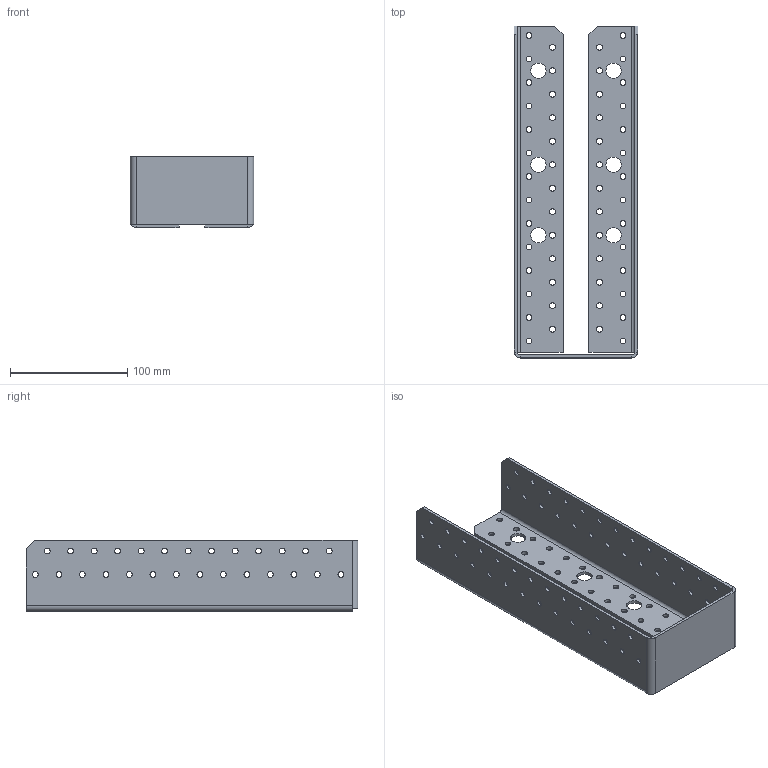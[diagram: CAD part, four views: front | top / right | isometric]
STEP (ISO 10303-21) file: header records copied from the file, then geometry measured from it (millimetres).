
FILE_DESCRIPTION (( 'STEP AP203' ), '1' );
FILE_NAME ('40502IKO.STEP', '2021-04-16T07:33:05', ( '' ), ( '' ), 'SwSTEP 2.0', 'SolidWorks 2013', '' );
FILE_SCHEMA (( 'CONFIG_CONTROL_DESIGN' ));
Length unit declared in the file: millimetre
Products named in the file (1): 40502IKO
Bounding box: 105 x 282.5 x 60.5 mm (x, y, z)
Volume: 143768.9 mm3; surface area: 123827.8 mm2
Topology: 1 solids, 1 shells, 272 faces, 780 edges, 510 vertices
Faces by surface type: cylinder 236, plane 36
Entity records: 9671 total; most frequent: DIRECTION 1800, CARTESIAN_POINT 1563, ORIENTED_EDGE 1560, EDGE_CURVE 780, AXIS2_PLACEMENT_3D 747, VERTEX_POINT 510, EDGE_LOOP 500, CIRCLE 474
